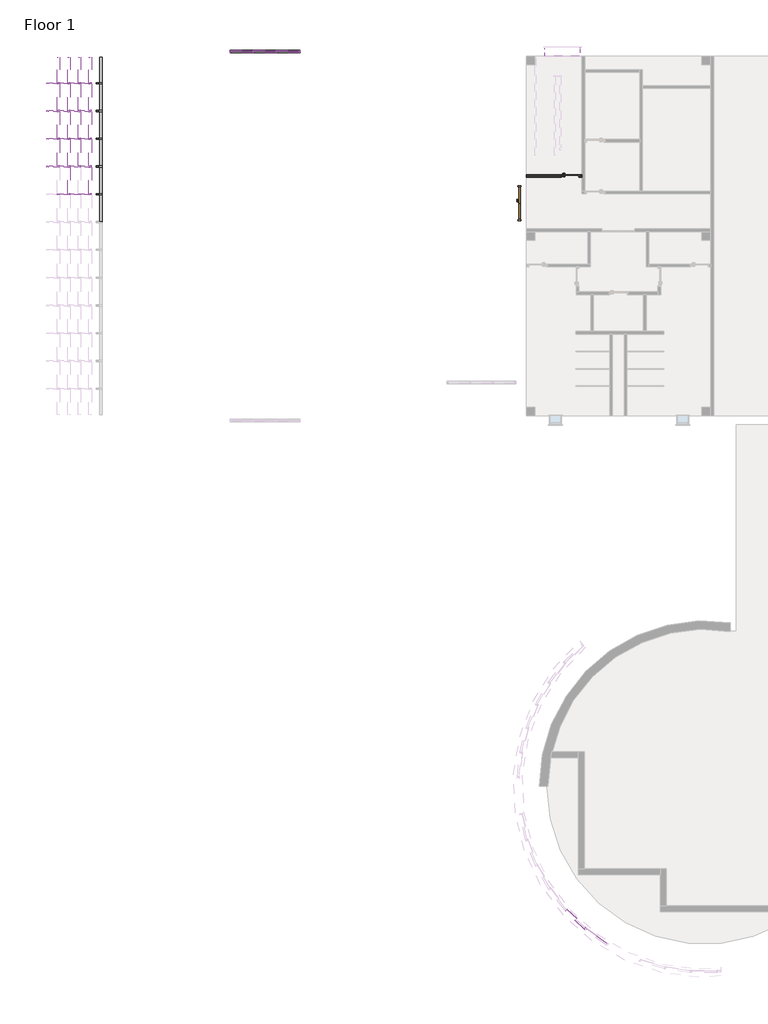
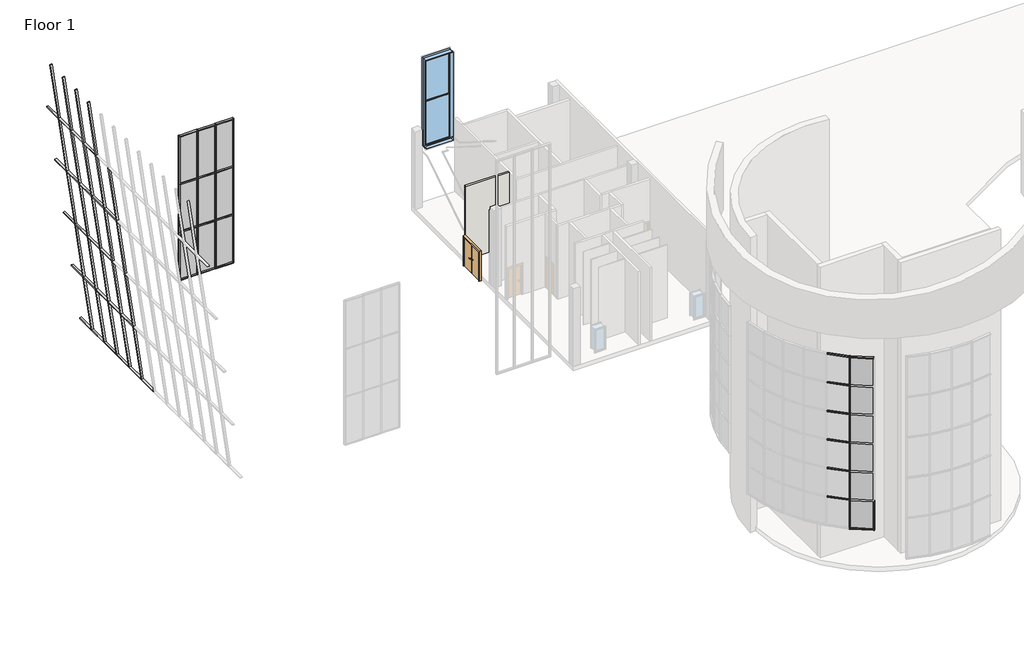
# One storey, part 4 of 11: 87 members, 15 plates, 2 doors, 1 wall, 1 window.
"""IFC4 building model written with IfcOpenShell, lengths in millimetres."""

from ifc_helpers import new_model, si_unit, frame, origin, place, context, project, spatial, polyline, outline, extrude, transform, mapped, element, save
from components import door_efda3cbc, door_a46f4f49, member_2f5ef470, member_233ab79f, member_995572cb, member_0efe1817, member_5e46efc9, member_58fb4e6d, member_60f5540e, member_f8a9089e, member_5e02c13a, member_c609194f, member_8caa64b4, member_b283b77b, member_01a33192, member_b037884b, member_01a4c065, member_349911e8, member_7b18d258, member_74dafc5e, member_9434a11c, system_panel_glazed_c8739ac2, system_panel_glazed_d9a1cec6, window_double_hung1_stairwell_window_f29d4600

model = new_model("IFC4")

# Units and contexts
model_context = context("Model", 3, world=origin())
ifc_project = project(units=[si_unit("LENGTHUNIT", "METRE", prefix="MILLI")], contexts=[model_context])

# Site, building, storey
site = spatial("IfcSite", under=ifc_project)
building = spatial("IfcBuilding", under=site)
storey = spatial("IfcBuildingStorey", under=building, Name="Floor 1", Elevation=0.0)

# Doors
placement = place(None, origin())
door_shape = door_efda3cbc(model_context)
element("IfcDoor", 1, ObjectType="Door-Passage-Double-Flush : 68\" x 80\"", at=placement, inside=storey, context=model_context, shape_type="MappedRepresentation", body=[
    mapped(door_shape, transform((-3186.4602165, 49707.011889, 0.0), x_axis=(0.0, 1.0, 0.0), y_axis=(-1.0, 0.0, 0.0), z_axis=(0.0, 0.0, 1.0))),
])
door_2_shape = door_a46f4f49(model_context)
element("IfcDoor", 2, ObjectType="Door-Passage-Single-Flush : 36\" x 84\"", at=placement, inside=storey, context=model_context, shape_type="MappedRepresentation", body=[
    mapped(door_2_shape, transform((-684.1807976, 51116.711889, 0.0), x_axis=(1.0, 0.0, 0.0), y_axis=(0.0, 1.0, 0.0), z_axis=(0.0, 0.0, 1.0))),
])

# Members
member_shape = member_2f5ef470(model_context)
element("IfcMember", 3, ObjectType="Rectangular Mullion1 : 2.5\" x 5\" rectangular", at=placement, inside=storey, context=model_context, shape_type="MappedRepresentation", body=[
    mapped(member_shape, transform((1235.4610146, 11112.8592493, 15849.6), x_axis=(0.0, 0.0, 1.0), y_axis=(-0.5828238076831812, -0.8125985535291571, 0.0), z_axis=(0.8125985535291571, -0.5828238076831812, 0.0))),
])
member_2_shape = member_233ab79f(model_context)
element("IfcMember", 4, ObjectType="Rectangular Mullion1 : 2.5\" x 5\" rectangular", at=placement, inside=storey, context=model_context, shape_type="MappedRepresentation", body=[
    mapped(member_2_shape, transform((98.4304721, 11934.0861139, 15849.6), x_axis=(0.0, 0.0, 1.0), y_axis=(-0.6953047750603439, -0.7187150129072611, 0.0), z_axis=(0.7187150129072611, -0.6953047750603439, 0.0))),
])
member_3_shape = member_995572cb(model_context)
element("IfcMember", 5, ObjectType="Rectangular Mullion1 : 2.5\" x 5\" rectangular", at=placement, inside=storey, context=model_context, shape_type="MappedRepresentation", body=[
    mapped(member_3_shape, transform((98.4304721, 11934.0861139, 5710.7666667), x_axis=(0.0, 0.0, 1.0), y_axis=(-0.695304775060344, -0.7187150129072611, 0.0), z_axis=(0.718715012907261, -0.6953047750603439, 0.0))),
])
element("IfcMember", 6, ObjectType="Rectangular Mullion1 : 2.5\" x 5\" rectangular", at=placement, inside=storey, context=model_context, shape_type="MappedRepresentation", body=[
    mapped(member_3_shape, transform((98.4304721, 11934.0861139, 7732.1833333), x_axis=(0.0, 0.0, 1.0), y_axis=(-0.695304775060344, -0.7187150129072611, 0.0), z_axis=(0.718715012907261, -0.6953047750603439, 0.0))),
])
element("IfcMember", 7, ObjectType="Rectangular Mullion1 : 2.5\" x 5\" rectangular", at=placement, inside=storey, context=model_context, shape_type="MappedRepresentation", body=[
    mapped(member_3_shape, transform((98.4304721, 11934.0861139, 9753.6), x_axis=(0.0, 0.0, 1.0), y_axis=(-0.6953047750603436, -0.7187150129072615, 0.0), z_axis=(0.7187150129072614, -0.6953047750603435, 0.0))),
])
element("IfcMember", 8, ObjectType="Rectangular Mullion1 : 2.5\" x 5\" rectangular", at=placement, inside=storey, context=model_context, shape_type="MappedRepresentation", body=[
    mapped(member_3_shape, transform((98.4304721, 11934.0861139, 11775.0166667), x_axis=(0.0, 0.0, 1.0), y_axis=(-0.6953047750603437, -0.7187150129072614, 0.0), z_axis=(0.7187150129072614, -0.6953047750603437, 0.0))),
])
element("IfcMember", 9, ObjectType="Rectangular Mullion1 : 2.5\" x 5\" rectangular", at=placement, inside=storey, context=model_context, shape_type="MappedRepresentation", body=[
    mapped(member_3_shape, transform((98.4304721, 11934.0861139, 13796.4333333), x_axis=(0.0, 0.0, 1.0), y_axis=(-0.6953047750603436, -0.7187150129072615, 0.0), z_axis=(0.7187150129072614, -0.6953047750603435, 0.0))),
])
member_4_shape = member_0efe1817(model_context)
element("IfcMember", 10, ObjectType="Rectangular Mullion1 : 2.5\" x 5\" rectangular", at=placement, inside=storey, context=model_context, shape_type="MappedRepresentation", body=[
    mapped(member_4_shape, transform((121.2496737, 11912.0101873, 3657.6), x_axis=(0.7671926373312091, -0.6414167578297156, 0.0), y_axis=(-0.6414167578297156, -0.7671926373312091, 0.0), z_axis=(0.0, 0.0, -1.0))),
])
member_5_shape = member_5e46efc9(model_context)
element("IfcMember", 11, ObjectType="Rectangular Mullion1 : 2.5\" x 5\" rectangular", at=placement, inside=storey, context=model_context, shape_type="MappedRepresentation", body=[
    mapped(member_5_shape, transform((121.2496737, 11912.0101873, 5710.7666667), x_axis=(0.7671926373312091, -0.6414167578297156, 0.0), y_axis=(-0.6414167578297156, -0.7671926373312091, 0.0), z_axis=(0.0, 0.0, -1.0))),
])
element("IfcMember", 12, ObjectType="Rectangular Mullion1 : 2.5\" x 5\" rectangular", at=placement, inside=storey, context=model_context, shape_type="MappedRepresentation", body=[
    mapped(member_5_shape, transform((121.2496737, 11912.0101873, 7732.1833333), x_axis=(0.7671926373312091, -0.6414167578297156, 0.0), y_axis=(-0.6414167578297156, -0.7671926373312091, 0.0), z_axis=(0.0, 0.0, -1.0))),
])
element("IfcMember", 13, ObjectType="Rectangular Mullion1 : 2.5\" x 5\" rectangular", at=placement, inside=storey, context=model_context, shape_type="MappedRepresentation", body=[
    mapped(member_5_shape, transform((121.2496737, 11912.0101873, 9753.6), x_axis=(0.7671926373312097, -0.6414167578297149, 0.0), y_axis=(-0.6414167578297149, -0.7671926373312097, 0.0), z_axis=(0.0, 0.0, -1.0))),
])
element("IfcMember", 14, ObjectType="Rectangular Mullion1 : 2.5\" x 5\" rectangular", at=placement, inside=storey, context=model_context, shape_type="MappedRepresentation", body=[
    mapped(member_5_shape, transform((121.2496737, 11912.0101873, 11775.0166667), x_axis=(0.7671926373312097, -0.6414167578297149, 0.0), y_axis=(-0.6414167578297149, -0.7671926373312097, 0.0), z_axis=(0.0, 0.0, -1.0))),
])
element("IfcMember", 15, ObjectType="Rectangular Mullion1 : 2.5\" x 5\" rectangular", at=placement, inside=storey, context=model_context, shape_type="MappedRepresentation", body=[
    mapped(member_4_shape, transform((121.2496737, 11912.0101873, 13796.4333333), x_axis=(0.7671926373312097, -0.6414167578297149, 0.0), y_axis=(-0.6414167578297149, -0.7671926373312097, 0.0), z_axis=(0.0, 0.0, -1.0))),
])
member_6_shape = member_58fb4e6d(model_context)
element("IfcMember", 16, ObjectType="Rectangular Mullion1 : 2.5\" x 5\" rectangular", at=placement, inside=storey, context=model_context, shape_type="MappedRepresentation", body=[
    mapped(member_6_shape, transform((147.0496778, 11893.5055314, 3657.6), x_axis=(0.0, 0.0, -1.0), y_axis=(-0.5828238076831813, -0.812598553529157, 0.0), z_axis=(-0.8125985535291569, 0.5828238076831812, 0.0))),
])
member_7_shape = member_60f5540e(model_context)
element("IfcMember", 17, ObjectType="Rectangular Mullion1 : 2.5\" x 5\" rectangular", at=placement, inside=storey, context=model_context, shape_type="MappedRepresentation", body=[
    mapped(member_7_shape, transform((1287.0610227, 11075.8499375, 3657.6), x_axis=(0.8125985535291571, -0.5828238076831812, 0.0), y_axis=(-0.5828238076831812, -0.8125985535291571, 0.0), z_axis=(0.0, 0.0, -1.0))),
])
member_8_shape = member_f8a9089e(model_context)
element("IfcMember", 18, ObjectType="Rectangular Mullion1 : 2.5\" x 5\" rectangular", at=placement, inside=storey, context=model_context, shape_type="MappedRepresentation", body=[
    mapped(member_8_shape, transform((-25136.1948919, 57303.199389, -154.1674984), x_axis=(0.13917310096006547, 0.0, -0.9902680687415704), y_axis=(-0.9902680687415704, 0.0, -0.13917310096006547), z_axis=(0.0, 1.0, 0.0))),
])
member_9_shape = member_5e02c13a(model_context)
element("IfcMember", 19, ObjectType="Rectangular Mullion1 : 2.5\" x 5\" rectangular", at=placement, inside=storey, context=model_context, shape_type="MappedRepresentation", body=[
    mapped(member_9_shape, transform((-25136.1948919, 55919.6320811, -154.1674984), x_axis=(0.13917310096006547, 0.0, -0.9902680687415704), y_axis=(-0.9902680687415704, 0.0, -0.13917310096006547), z_axis=(0.0, 1.0, 0.0))),
])
element("IfcMember", 20, ObjectType="Rectangular Mullion1 : 2.5\" x 5\" rectangular", at=placement, inside=storey, context=model_context, shape_type="MappedRepresentation", body=[
    mapped(member_9_shape, transform((-25136.1948919, 54472.5647734, -154.1674984), x_axis=(0.13917310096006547, 0.0, -0.9902680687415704), y_axis=(-0.9902680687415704, 0.0, -0.13917310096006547), z_axis=(0.0, 1.0, 0.0))),
])
element("IfcMember", 21, ObjectType="Rectangular Mullion1 : 2.5\" x 5\" rectangular", at=placement, inside=storey, context=model_context, shape_type="MappedRepresentation", body=[
    mapped(member_9_shape, transform((-25136.1948919, 53025.4974658, -154.1674984), x_axis=(0.13917310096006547, 0.0, -0.9902680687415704), y_axis=(-0.9902680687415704, 0.0, -0.13917310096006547), z_axis=(0.0, 1.0, 0.0))),
])
element("IfcMember", 22, ObjectType="Rectangular Mullion1 : 2.5\" x 5\" rectangular", at=placement, inside=storey, context=model_context, shape_type="MappedRepresentation", body=[
    mapped(member_9_shape, transform((-25136.1948919, 51578.4301581, -154.1674984), x_axis=(0.13917310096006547, 0.0, -0.9902680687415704), y_axis=(-0.9902680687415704, 0.0, -0.13917310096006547), z_axis=(0.0, 1.0, 0.0))),
])
element("IfcMember", 23, ObjectType="Rectangular Mullion1 : 2.5\" x 5\" rectangular", at=placement, inside=storey, context=model_context, shape_type="MappedRepresentation", body=[
    mapped(member_9_shape, transform((-25136.1948919, 50131.3628505, -154.1674984), x_axis=(0.13917310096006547, 0.0, -0.9902680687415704), y_axis=(-0.9902680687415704, 0.0, -0.13917310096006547), z_axis=(0.0, 1.0, 0.0))),
])
member_10_shape = member_c609194f(model_context)
element("IfcMember", 24, ObjectType="Rectangular Mullion1 : 2.5\" x 5\" rectangular", at=placement, inside=storey, context=model_context, shape_type="MappedRepresentation", body=[
    mapped(member_10_shape, transform((-25693.3790742, 55983.1320811, 3810.4039622), x_axis=(-0.13917310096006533, 0.0, 0.9902680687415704), y_axis=(-0.9902680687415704, 0.0, -0.13917310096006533), z_axis=(0.0, -1.0, 0.0))),
])
element("IfcMember", 25, ObjectType="Rectangular Mullion1 : 2.5\" x 5\" rectangular", at=placement, inside=storey, context=model_context, shape_type="MappedRepresentation", body=[
    mapped(member_10_shape, transform((-26246.1445106, 55983.1320811, 7743.5344115), x_axis=(-0.13917310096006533, 0.0, 0.9902680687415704), y_axis=(-0.9902680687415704, 0.0, -0.13917310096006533), z_axis=(0.0, -1.0, 0.0))),
])
element("IfcMember", 26, ObjectType="Rectangular Mullion1 : 2.5\" x 5\" rectangular", at=placement, inside=storey, context=model_context, shape_type="MappedRepresentation", body=[
    mapped(member_10_shape, transform((-26798.9099469, 55983.1320811, 11676.6648609), x_axis=(-0.13917310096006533, 0.0, 0.9902680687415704), y_axis=(-0.9902680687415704, 0.0, -0.13917310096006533), z_axis=(0.0, -1.0, 0.0))),
])
element("IfcMember", 27, ObjectType="Rectangular Mullion1 : 2.5\" x 5\" rectangular", at=placement, inside=storey, context=model_context, shape_type="MappedRepresentation", body=[
    mapped(member_10_shape, transform((-27351.6753833, 55983.1320811, 15609.7953102), x_axis=(-0.13917310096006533, 0.0, 0.9902680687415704), y_axis=(-0.9902680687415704, 0.0, -0.13917310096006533), z_axis=(0.0, -1.0, 0.0))),
])
member_11_shape = member_8caa64b4(model_context)
element("IfcMember", 28, ObjectType="Rectangular Mullion1 : 2.5\" x 5\" rectangular", at=placement, inside=storey, context=model_context, shape_type="MappedRepresentation", body=[
    mapped(member_11_shape, transform((-25693.3790742, 54536.0647734, 3810.4039622), x_axis=(-0.13917310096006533, 0.0, 0.9902680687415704), y_axis=(-0.9902680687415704, 0.0, -0.13917310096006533), z_axis=(0.0, -1.0, 0.0))),
])
element("IfcMember", 29, ObjectType="Rectangular Mullion1 : 2.5\" x 5\" rectangular", at=placement, inside=storey, context=model_context, shape_type="MappedRepresentation", body=[
    mapped(member_11_shape, transform((-25693.3790742, 53088.9974658, 3810.4039622), x_axis=(-0.13917310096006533, 0.0, 0.9902680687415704), y_axis=(-0.9902680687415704, 0.0, -0.13917310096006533), z_axis=(0.0, -1.0, 0.0))),
])
element("IfcMember", 30, ObjectType="Rectangular Mullion1 : 2.5\" x 5\" rectangular", at=placement, inside=storey, context=model_context, shape_type="MappedRepresentation", body=[
    mapped(member_11_shape, transform((-25693.3790742, 51641.9301581, 3810.4039622), x_axis=(-0.13917310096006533, 0.0, 0.9902680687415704), y_axis=(-0.9902680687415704, 0.0, -0.13917310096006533), z_axis=(0.0, -1.0, 0.0))),
])
element("IfcMember", 31, ObjectType="Rectangular Mullion1 : 2.5\" x 5\" rectangular", at=placement, inside=storey, context=model_context, shape_type="MappedRepresentation", body=[
    mapped(member_11_shape, transform((-25693.3790742, 50194.8628505, 3810.4039622), x_axis=(-0.13917310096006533, 0.0, 0.9902680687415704), y_axis=(-0.9902680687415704, 0.0, -0.13917310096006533), z_axis=(0.0, -1.0, 0.0))),
])
element("IfcMember", 32, ObjectType="Rectangular Mullion1 : 2.5\" x 5\" rectangular", at=placement, inside=storey, context=model_context, shape_type="MappedRepresentation", body=[
    mapped(member_11_shape, transform((-26246.1445106, 54536.0647734, 7743.5344115), x_axis=(-0.13917310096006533, 0.0, 0.9902680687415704), y_axis=(-0.9902680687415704, 0.0, -0.13917310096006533), z_axis=(0.0, -1.0, 0.0))),
])
element("IfcMember", 33, ObjectType="Rectangular Mullion1 : 2.5\" x 5\" rectangular", at=placement, inside=storey, context=model_context, shape_type="MappedRepresentation", body=[
    mapped(member_11_shape, transform((-26246.1445106, 53088.9974658, 7743.5344115), x_axis=(-0.13917310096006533, 0.0, 0.9902680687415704), y_axis=(-0.9902680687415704, 0.0, -0.13917310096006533), z_axis=(0.0, -1.0, 0.0))),
])
element("IfcMember", 34, ObjectType="Rectangular Mullion1 : 2.5\" x 5\" rectangular", at=placement, inside=storey, context=model_context, shape_type="MappedRepresentation", body=[
    mapped(member_11_shape, transform((-26246.1445106, 51641.9301581, 7743.5344115), x_axis=(-0.13917310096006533, 0.0, 0.9902680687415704), y_axis=(-0.9902680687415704, 0.0, -0.13917310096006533), z_axis=(0.0, -1.0, 0.0))),
])
element("IfcMember", 35, ObjectType="Rectangular Mullion1 : 2.5\" x 5\" rectangular", at=placement, inside=storey, context=model_context, shape_type="MappedRepresentation", body=[
    mapped(member_11_shape, transform((-26798.9099469, 54536.0647734, 11676.6648609), x_axis=(-0.13917310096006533, 0.0, 0.9902680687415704), y_axis=(-0.9902680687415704, 0.0, -0.13917310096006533), z_axis=(0.0, -1.0, 0.0))),
])
element("IfcMember", 36, ObjectType="Rectangular Mullion1 : 2.5\" x 5\" rectangular", at=placement, inside=storey, context=model_context, shape_type="MappedRepresentation", body=[
    mapped(member_11_shape, transform((-26798.9099469, 53088.9974658, 11676.6648609), x_axis=(-0.13917310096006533, 0.0, 0.9902680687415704), y_axis=(-0.9902680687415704, 0.0, -0.13917310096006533), z_axis=(0.0, -1.0, 0.0))),
])
element("IfcMember", 37, ObjectType="Rectangular Mullion1 : 2.5\" x 5\" rectangular", at=placement, inside=storey, context=model_context, shape_type="MappedRepresentation", body=[
    mapped(member_11_shape, transform((-26798.9099469, 51641.9301581, 11676.6648609), x_axis=(-0.13917310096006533, 0.0, 0.9902680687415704), y_axis=(-0.9902680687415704, 0.0, -0.13917310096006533), z_axis=(0.0, -1.0, 0.0))),
])
element("IfcMember", 38, ObjectType="Rectangular Mullion1 : 2.5\" x 5\" rectangular", at=placement, inside=storey, context=model_context, shape_type="MappedRepresentation", body=[
    mapped(member_11_shape, transform((-26798.9099469, 50194.8628505, 11676.6648609), x_axis=(-0.13917310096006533, 0.0, 0.9902680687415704), y_axis=(-0.9902680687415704, 0.0, -0.13917310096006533), z_axis=(0.0, -1.0, 0.0))),
])
element("IfcMember", 39, ObjectType="Rectangular Mullion1 : 2.5\" x 5\" rectangular", at=placement, inside=storey, context=model_context, shape_type="MappedRepresentation", body=[
    mapped(member_11_shape, transform((-27351.6753833, 54536.0647734, 15609.7953102), x_axis=(-0.13917310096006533, 0.0, 0.9902680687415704), y_axis=(-0.9902680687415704, 0.0, -0.13917310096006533), z_axis=(0.0, -1.0, 0.0))),
])
element("IfcMember", 40, ObjectType="Rectangular Mullion1 : 2.5\" x 5\" rectangular", at=placement, inside=storey, context=model_context, shape_type="MappedRepresentation", body=[
    mapped(member_11_shape, transform((-27351.6753833, 53088.9974658, 15609.7953102), x_axis=(-0.13917310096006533, 0.0, 0.9902680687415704), y_axis=(-0.9902680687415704, 0.0, -0.13917310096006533), z_axis=(0.0, -1.0, 0.0))),
])
element("IfcMember", 41, ObjectType="Rectangular Mullion1 : 2.5\" x 5\" rectangular", at=placement, inside=storey, context=model_context, shape_type="MappedRepresentation", body=[
    mapped(member_11_shape, transform((-27351.6753833, 51641.9301581, 15609.7953102), x_axis=(-0.13917310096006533, 0.0, 0.9902680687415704), y_axis=(-0.9902680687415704, 0.0, -0.13917310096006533), z_axis=(0.0, -1.0, 0.0))),
])
member_12_shape = member_b283b77b(model_context)
element("IfcMember", 42, ObjectType="Rectangular Mullion1 : 2.5\" x 5\" rectangular", at=placement, inside=storey, context=model_context, shape_type="MappedRepresentation", body=[
    mapped(member_12_shape, transform((-25136.1948919, 55951.3820811, -154.1674984), x_axis=(0.0, -1.0, 0.0), y_axis=(-0.9902680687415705, 0.0, -0.13917310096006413), z_axis=(0.13917310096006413, 0.0, -0.9902680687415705))),
])
element("IfcMember", 43, ObjectType="Rectangular Mullion1 : 2.5\" x 5\" rectangular", at=placement, inside=storey, context=model_context, shape_type="MappedRepresentation", body=[
    mapped(member_12_shape, transform((-25136.1948919, 54504.3147734, -154.1674984), x_axis=(0.0, -1.0, 0.0), y_axis=(-0.99026806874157, 0.0, -0.1391731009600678), z_axis=(0.1391731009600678, 0.0, -0.99026806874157))),
])
element("IfcMember", 44, ObjectType="Rectangular Mullion1 : 2.5\" x 5\" rectangular", at=placement, inside=storey, context=model_context, shape_type="MappedRepresentation", body=[
    mapped(member_12_shape, transform((-25136.1948919, 53057.2474658, -154.1674984), x_axis=(0.0, -1.0, 0.0), y_axis=(-0.9902680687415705, 0.0, -0.13917310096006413), z_axis=(0.13917310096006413, 0.0, -0.9902680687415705))),
])
element("IfcMember", 45, ObjectType="Rectangular Mullion1 : 2.5\" x 5\" rectangular", at=placement, inside=storey, context=model_context, shape_type="MappedRepresentation", body=[
    mapped(member_12_shape, transform((-25136.1948919, 51610.1801581, -154.1674984), x_axis=(0.0, -1.0, 0.0), y_axis=(-0.99026806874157, 0.0, -0.1391731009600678), z_axis=(0.1391731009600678, 0.0, -0.99026806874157))),
])
element("IfcMember", 46, ObjectType="Rectangular Mullion1 : 2.5\" x 5\" rectangular", at=placement, inside=storey, context=model_context, shape_type="MappedRepresentation", body=[
    mapped(member_12_shape, transform((-25136.1948919, 50163.1128505, -154.1674984), x_axis=(0.0, -1.0, 0.0), y_axis=(-0.9902680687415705, 0.0, -0.13917310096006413), z_axis=(0.13917310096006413, 0.0, -0.9902680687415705))),
])
member_13_shape = member_01a33192(model_context)
element("IfcMember", 47, ObjectType="Rectangular Mullion1 : 2.5\" x 5\" rectangular", at=placement, inside=storey, context=model_context, shape_type="MappedRepresentation", body=[
    mapped(member_13_shape, transform((-25693.3790742, 55951.3820811, 3810.4039622), x_axis=(0.0, -1.0, 0.0), y_axis=(-0.9902680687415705, 0.0, -0.13917310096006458), z_axis=(0.13917310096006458, 0.0, -0.9902680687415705))),
])
element("IfcMember", 48, ObjectType="Rectangular Mullion1 : 2.5\" x 5\" rectangular", at=placement, inside=storey, context=model_context, shape_type="MappedRepresentation", body=[
    mapped(member_13_shape, transform((-25693.3790742, 54504.3147734, 3810.4039622), x_axis=(0.0, -1.0, 0.0), y_axis=(-0.9902680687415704, 0.0, -0.13917310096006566), z_axis=(0.13917310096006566, 0.0, -0.9902680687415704))),
])
element("IfcMember", 49, ObjectType="Rectangular Mullion1 : 2.5\" x 5\" rectangular", at=placement, inside=storey, context=model_context, shape_type="MappedRepresentation", body=[
    mapped(member_13_shape, transform((-25693.3790742, 53057.2474658, 3810.4039622), x_axis=(0.0, -1.0, 0.0), y_axis=(-0.9902680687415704, 0.0, -0.13917310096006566), z_axis=(0.13917310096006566, 0.0, -0.9902680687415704))),
])
element("IfcMember", 50, ObjectType="Rectangular Mullion1 : 2.5\" x 5\" rectangular", at=placement, inside=storey, context=model_context, shape_type="MappedRepresentation", body=[
    mapped(member_13_shape, transform((-25693.3790742, 51610.1801581, 3810.4039622), x_axis=(0.0, -1.0, 0.0), y_axis=(-0.9902680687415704, 0.0, -0.13917310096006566), z_axis=(0.13917310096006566, 0.0, -0.9902680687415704))),
])
element("IfcMember", 51, ObjectType="Rectangular Mullion1 : 2.5\" x 5\" rectangular", at=placement, inside=storey, context=model_context, shape_type="MappedRepresentation", body=[
    mapped(member_13_shape, transform((-25693.3790742, 50163.1128505, 3810.4039622), x_axis=(0.0, -1.0, 0.0), y_axis=(-0.9902680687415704, 0.0, -0.13917310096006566), z_axis=(0.13917310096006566, 0.0, -0.9902680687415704))),
])
element("IfcMember", 52, ObjectType="Rectangular Mullion1 : 2.5\" x 5\" rectangular", at=placement, inside=storey, context=model_context, shape_type="MappedRepresentation", body=[
    mapped(member_13_shape, transform((-26246.1445106, 55951.3820811, 7743.5344115), x_axis=(0.0, -1.0, 0.0), y_axis=(-0.9902680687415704, 0.0, -0.13917310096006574), z_axis=(0.13917310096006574, 0.0, -0.9902680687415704))),
])
element("IfcMember", 53, ObjectType="Rectangular Mullion1 : 2.5\" x 5\" rectangular", at=placement, inside=storey, context=model_context, shape_type="MappedRepresentation", body=[
    mapped(member_13_shape, transform((-26246.1445106, 54504.3147734, 7743.5344115), x_axis=(0.0, -1.0, 0.0), y_axis=(-0.9902680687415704, 0.0, -0.13917310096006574), z_axis=(0.13917310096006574, 0.0, -0.9902680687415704))),
])
element("IfcMember", 54, ObjectType="Rectangular Mullion1 : 2.5\" x 5\" rectangular", at=placement, inside=storey, context=model_context, shape_type="MappedRepresentation", body=[
    mapped(member_13_shape, transform((-26246.1445106, 53057.2474658, 7743.5344115), x_axis=(0.0, -1.0, 0.0), y_axis=(-0.9902680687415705, 0.0, -0.13917310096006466), z_axis=(0.13917310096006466, 0.0, -0.9902680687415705))),
])
element("IfcMember", 55, ObjectType="Rectangular Mullion1 : 2.5\" x 5\" rectangular", at=placement, inside=storey, context=model_context, shape_type="MappedRepresentation", body=[
    mapped(member_13_shape, transform((-26246.1445106, 51610.1801581, 7743.5344115), x_axis=(0.0, -1.0, 0.0), y_axis=(-0.9902680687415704, 0.0, -0.13917310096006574), z_axis=(0.13917310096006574, 0.0, -0.9902680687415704))),
])
element("IfcMember", 56, ObjectType="Rectangular Mullion1 : 2.5\" x 5\" rectangular", at=placement, inside=storey, context=model_context, shape_type="MappedRepresentation", body=[
    mapped(member_13_shape, transform((-26246.1445106, 50163.1128505, 7743.5344115), x_axis=(0.0, -1.0, 0.0), y_axis=(-0.9902680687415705, 0.0, -0.13917310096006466), z_axis=(0.13917310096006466, 0.0, -0.9902680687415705))),
])
element("IfcMember", 57, ObjectType="Rectangular Mullion1 : 2.5\" x 5\" rectangular", at=placement, inside=storey, context=model_context, shape_type="MappedRepresentation", body=[
    mapped(member_13_shape, transform((-26798.9099469, 55951.3820811, 11676.6648609), x_axis=(0.0, -1.0, 0.0), y_axis=(-0.9902680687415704, 0.0, -0.13917310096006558), z_axis=(0.13917310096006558, 0.0, -0.9902680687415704))),
])
element("IfcMember", 58, ObjectType="Rectangular Mullion1 : 2.5\" x 5\" rectangular", at=placement, inside=storey, context=model_context, shape_type="MappedRepresentation", body=[
    mapped(member_13_shape, transform((-26798.9099469, 54504.3147734, 11676.6648609), x_axis=(0.0, -1.0, 0.0), y_axis=(-0.9902680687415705, 0.0, -0.1391731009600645), z_axis=(0.1391731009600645, 0.0, -0.9902680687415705))),
])
element("IfcMember", 59, ObjectType="Rectangular Mullion1 : 2.5\" x 5\" rectangular", at=placement, inside=storey, context=model_context, shape_type="MappedRepresentation", body=[
    mapped(member_13_shape, transform((-26798.9099469, 53057.2474658, 11676.6648609), x_axis=(0.0, -1.0, 0.0), y_axis=(-0.9902680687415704, 0.0, -0.13917310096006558), z_axis=(0.13917310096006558, 0.0, -0.9902680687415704))),
])
element("IfcMember", 60, ObjectType="Rectangular Mullion1 : 2.5\" x 5\" rectangular", at=placement, inside=storey, context=model_context, shape_type="MappedRepresentation", body=[
    mapped(member_13_shape, transform((-26798.9099469, 51610.1801581, 11676.6648609), x_axis=(0.0, -1.0, 0.0), y_axis=(-0.9902680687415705, 0.0, -0.1391731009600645), z_axis=(0.1391731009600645, 0.0, -0.9902680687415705))),
])
element("IfcMember", 61, ObjectType="Rectangular Mullion1 : 2.5\" x 5\" rectangular", at=placement, inside=storey, context=model_context, shape_type="MappedRepresentation", body=[
    mapped(member_13_shape, transform((-26798.9099469, 50163.1128505, 11676.6648609), x_axis=(0.0, -1.0, 0.0), y_axis=(-0.9902680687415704, 0.0, -0.13917310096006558), z_axis=(0.13917310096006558, 0.0, -0.9902680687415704))),
])
element("IfcMember", 62, ObjectType="Rectangular Mullion1 : 2.5\" x 5\" rectangular", at=placement, inside=storey, context=model_context, shape_type="MappedRepresentation", body=[
    mapped(member_12_shape, transform((-27351.6753833, 55951.3820811, 15609.7953102), x_axis=(0.0, -1.0, 0.0), y_axis=(-0.9902680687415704, 0.0, -0.13917310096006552), z_axis=(0.1391731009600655, 0.0, -0.9902680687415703))),
])
element("IfcMember", 63, ObjectType="Rectangular Mullion1 : 2.5\" x 5\" rectangular", at=placement, inside=storey, context=model_context, shape_type="MappedRepresentation", body=[
    mapped(member_12_shape, transform((-27351.6753833, 54504.3147734, 15609.7953102), x_axis=(0.0, -1.0, 0.0), y_axis=(-0.9902680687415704, 0.0, -0.13917310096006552), z_axis=(0.1391731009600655, 0.0, -0.9902680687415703))),
])
element("IfcMember", 64, ObjectType="Rectangular Mullion1 : 2.5\" x 5\" rectangular", at=placement, inside=storey, context=model_context, shape_type="MappedRepresentation", body=[
    mapped(member_12_shape, transform((-27351.6753833, 53057.2474658, 15609.7953102), x_axis=(0.0, -1.0, 0.0), y_axis=(-0.9902680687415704, 0.0, -0.13917310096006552), z_axis=(0.1391731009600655, 0.0, -0.9902680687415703))),
])
element("IfcMember", 65, ObjectType="Rectangular Mullion1 : 2.5\" x 5\" rectangular", at=placement, inside=storey, context=model_context, shape_type="MappedRepresentation", body=[
    mapped(member_12_shape, transform((-27351.6753833, 51610.1801581, 15609.7953102), x_axis=(0.0, -1.0, 0.0), y_axis=(-0.9902680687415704, 0.0, -0.13917310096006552), z_axis=(0.1391731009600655, 0.0, -0.9902680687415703))),
])
member_14_shape = member_b037884b(model_context)
element("IfcMember", 66, ObjectType="Rectangular Mullion1 : 2.5\" x 5\" rectangular", at=placement, inside=storey, context=model_context, shape_type="MappedRepresentation", body=[
    mapped(member_14_shape, transform((-18341.9432976, 57593.711889, 10210.8), x_axis=(0.0, 0.0, 1.0), y_axis=(0.0, 1.0, 0.0), z_axis=(-1.0, 0.0, 0.0))),
])
element("IfcMember", 67, ObjectType="Rectangular Mullion1 : 2.5\" x 5\" rectangular", at=placement, inside=storey, context=model_context, shape_type="MappedRepresentation", body=[
    mapped(member_14_shape, transform((-15945.8766311, 57593.711889, 10210.8), x_axis=(0.0, 0.0, 1.0), y_axis=(0.0, 1.0, 0.0), z_axis=(-1.0, 0.0, 0.0))),
])
element("IfcMember", 68, ObjectType="Rectangular Mullion1 : 2.5\" x 5\" rectangular", at=placement, inside=storey, context=model_context, shape_type="MappedRepresentation", body=[
    mapped(member_14_shape, transform((-17143.9099642, 57593.711889, 10210.8), x_axis=(0.0, 0.0, 1.0), y_axis=(0.0, 1.0, 0.0), z_axis=(-1.0, 0.0, 0.0))),
])
element("IfcMember", 69, ObjectType="Rectangular Mullion1 : 2.5\" x 5\" rectangular", at=placement, inside=storey, context=model_context, shape_type="MappedRepresentation", body=[
    mapped(member_14_shape, transform((-14811.3432976, 57593.711889, 0.0), x_axis=(0.0, 0.0, -1.0), y_axis=(0.0, 1.0, 0.0), z_axis=(1.0, 0.0, 0.0))),
])
element("IfcMember", 70, ObjectType="Rectangular Mullion1 : 2.5\" x 5\" rectangular", at=placement, inside=storey, context=model_context, shape_type="MappedRepresentation", body=[
    mapped(member_14_shape, transform((-16009.3766311, 57593.711889, 0.0), x_axis=(0.0, 0.0, -1.0), y_axis=(0.0, 1.0, 0.0), z_axis=(1.0, 0.0, 0.0))),
])
element("IfcMember", 71, ObjectType="Rectangular Mullion1 : 2.5\" x 5\" rectangular", at=placement, inside=storey, context=model_context, shape_type="MappedRepresentation", body=[
    mapped(member_14_shape, transform((-17207.4099642, 57593.711889, 0.0), x_axis=(0.0, 0.0, -1.0), y_axis=(0.0, 1.0, 0.0), z_axis=(1.0, 0.0, 0.0))),
])
member_15_shape = member_01a4c065(model_context)
element("IfcMember", 72, ObjectType="Rectangular Mullion1 : 2.5\" x 5\" rectangular", at=placement, inside=storey, context=model_context, shape_type="MappedRepresentation", body=[
    mapped(member_15_shape, transform((-15945.8766311, 57593.711889, 3414.1833333), x_axis=(0.0, 0.0, 1.0), y_axis=(0.0, 1.0, 0.0), z_axis=(-1.0, 0.0, 0.0))),
])
element("IfcMember", 73, ObjectType="Rectangular Mullion1 : 2.5\" x 5\" rectangular", at=placement, inside=storey, context=model_context, shape_type="MappedRepresentation", body=[
    mapped(member_15_shape, transform((-17143.9099642, 57593.711889, 3414.1833333), x_axis=(0.0, 0.0, 1.0), y_axis=(0.0, 1.0, 0.0), z_axis=(-1.0, 0.0, 0.0))),
])
element("IfcMember", 74, ObjectType="Rectangular Mullion1 : 2.5\" x 5\" rectangular", at=placement, inside=storey, context=model_context, shape_type="MappedRepresentation", body=[
    mapped(member_15_shape, transform((-18341.9432976, 57593.711889, 3414.1833333), x_axis=(0.0, 0.0, 1.0), y_axis=(0.0, 1.0, 0.0), z_axis=(-1.0, 0.0, 0.0))),
])
element("IfcMember", 75, ObjectType="Rectangular Mullion1 : 2.5\" x 5\" rectangular", at=placement, inside=storey, context=model_context, shape_type="MappedRepresentation", body=[
    mapped(member_15_shape, transform((-15945.8766311, 57593.711889, 6796.6166667), x_axis=(0.0, 0.0, 1.0), y_axis=(0.0, 1.0, 0.0), z_axis=(-1.0, 0.0, 0.0))),
])
element("IfcMember", 76, ObjectType="Rectangular Mullion1 : 2.5\" x 5\" rectangular", at=placement, inside=storey, context=model_context, shape_type="MappedRepresentation", body=[
    mapped(member_15_shape, transform((-17143.9099642, 57593.711889, 6796.6166667), x_axis=(0.0, 0.0, 1.0), y_axis=(0.0, 1.0, 0.0), z_axis=(-1.0, 0.0, 0.0))),
])
element("IfcMember", 77, ObjectType="Rectangular Mullion1 : 2.5\" x 5\" rectangular", at=placement, inside=storey, context=model_context, shape_type="MappedRepresentation", body=[
    mapped(member_15_shape, transform((-18341.9432976, 57593.711889, 6796.6166667), x_axis=(0.0, 0.0, 1.0), y_axis=(0.0, 1.0, 0.0), z_axis=(-1.0, 0.0, 0.0))),
])
member_16_shape = member_349911e8(model_context)
element("IfcMember", 78, ObjectType="Rectangular Mullion1 : 2.5\" x 5\" rectangular", at=placement, inside=storey, context=model_context, shape_type="MappedRepresentation", body=[
    mapped(member_16_shape, transform((-15977.6266311, 57593.711889, 0.0), x_axis=(-1.0, 0.0, 0.0), y_axis=(0.0, 1.0, 0.0), z_axis=(0.0, 0.0, -1.0))),
])
element("IfcMember", 79, ObjectType="Rectangular Mullion1 : 2.5\" x 5\" rectangular", at=placement, inside=storey, context=model_context, shape_type="MappedRepresentation", body=[
    mapped(member_16_shape, transform((-17175.6599642, 57593.711889, 0.0), x_axis=(-1.0, 0.0, 0.0), y_axis=(0.0, 1.0, 0.0), z_axis=(0.0, 0.0, -1.0))),
])
member_17_shape = member_7b18d258(model_context)
element("IfcMember", 80, ObjectType="Rectangular Mullion1 : 2.5\" x 5\" rectangular", at=placement, inside=storey, context=model_context, shape_type="MappedRepresentation", body=[
    mapped(member_17_shape, transform((-15977.6266311, 57593.711889, 3414.1833333), x_axis=(-1.0, 0.0, 0.0), y_axis=(0.0, 1.0, 0.0), z_axis=(0.0, 0.0, -1.0))),
])
element("IfcMember", 81, ObjectType="Rectangular Mullion1 : 2.5\" x 5\" rectangular", at=placement, inside=storey, context=model_context, shape_type="MappedRepresentation", body=[
    mapped(member_17_shape, transform((-17175.6599642, 57593.711889, 3414.1833333), x_axis=(-1.0, 0.0, 0.0), y_axis=(0.0, 1.0, 0.0), z_axis=(0.0, 0.0, -1.0))),
])
element("IfcMember", 82, ObjectType="Rectangular Mullion1 : 2.5\" x 5\" rectangular", at=placement, inside=storey, context=model_context, shape_type="MappedRepresentation", body=[
    mapped(member_16_shape, transform((-15977.6266311, 57593.711889, 6796.6166667), x_axis=(-1.0, 0.0, 0.0), y_axis=(0.0, 1.0, 0.0), z_axis=(0.0, 0.0, -1.0))),
])
element("IfcMember", 83, ObjectType="Rectangular Mullion1 : 2.5\" x 5\" rectangular", at=placement, inside=storey, context=model_context, shape_type="MappedRepresentation", body=[
    mapped(member_16_shape, transform((-17175.6599642, 57593.711889, 6796.6166667), x_axis=(-1.0, 0.0, 0.0), y_axis=(0.0, 1.0, 0.0), z_axis=(0.0, 0.0, -1.0))),
])
member_18_shape = member_74dafc5e(model_context)
element("IfcMember", 84, ObjectType="Rectangular Mullion1 : 2.5\" x 5\" rectangular", at=placement, inside=storey, context=model_context, shape_type="MappedRepresentation", body=[
    mapped(member_18_shape, transform((-18405.4432976, 57593.711889, 0.0), x_axis=(-1.0, 0.0, 0.0), y_axis=(0.0, 1.0, 0.0), z_axis=(0.0, 0.0, -1.0))),
])
member_19_shape = member_9434a11c(model_context)
element("IfcMember", 85, ObjectType="Rectangular Mullion1 : 2.5\" x 5\" rectangular", at=placement, inside=storey, context=model_context, shape_type="MappedRepresentation", body=[
    mapped(member_19_shape, transform((-18405.4432976, 57593.711889, 3414.1833333), x_axis=(-1.0, 0.0, 0.0), y_axis=(0.0, 1.0, 0.0), z_axis=(0.0, 0.0, -1.0))),
])
element("IfcMember", 86, ObjectType="Rectangular Mullion1 : 2.5\" x 5\" rectangular", at=placement, inside=storey, context=model_context, shape_type="MappedRepresentation", body=[
    mapped(member_18_shape, transform((-18405.4432976, 57593.711889, 6796.6166667), x_axis=(-1.0, 0.0, 0.0), y_axis=(0.0, 1.0, 0.0), z_axis=(0.0, 0.0, -1.0))),
])
element("IfcMember", 87, ObjectType="Rectangular Mullion1 : 2.5\" x 5\" rectangular", at=placement, inside=storey, context=model_context, shape_type="MappedRepresentation", body=[
    mapped(member_18_shape, transform((-14747.8432976, 57593.711889, 10210.8), x_axis=(1.0, 0.0, 0.0), y_axis=(0.0, 1.0, 0.0), z_axis=(0.0, 0.0, 1.0))),
])
element("IfcMember", 88, ObjectType="Rectangular Mullion1 : 2.5\" x 5\" rectangular", at=placement, inside=storey, context=model_context, shape_type="MappedRepresentation", body=[
    mapped(member_18_shape, transform((-14747.8432976, 57593.711889, 3414.1833333), x_axis=(1.0, 0.0, 0.0), y_axis=(0.0, 1.0, 0.0), z_axis=(0.0, 0.0, 1.0))),
])
element("IfcMember", 89, ObjectType="Rectangular Mullion1 : 2.5\" x 5\" rectangular", at=placement, inside=storey, context=model_context, shape_type="MappedRepresentation", body=[
    mapped(member_19_shape, transform((-14747.8432976, 57593.711889, 6796.6166667), x_axis=(1.0, 0.0, 0.0), y_axis=(0.0, 1.0, 0.0), z_axis=(0.0, 0.0, 1.0))),
])

# Plates
system_panel_glazed_shape = system_panel_glazed_c8739ac2(model_context)
element("IfcPlate", 90, ObjectType="System Panel : Glazed", at=placement, inside=storey, context=model_context, shape_type="MappedRepresentation", body=[
    mapped(system_panel_glazed_shape, transform((691.2553462, 11503.1823903, 3721.1), x_axis=(0.8125985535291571, -0.5828238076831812, 0.0), y_axis=(0.5828238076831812, 0.8125985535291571, 0.0), z_axis=(0.0, 0.0, 1.0))),
])
element("IfcPlate", 91, ObjectType="System Panel : Glazed", at=placement, inside=storey, context=model_context, shape_type="MappedRepresentation", body=[
    mapped(system_panel_glazed_shape, transform((691.2553462, 11503.1823903, 5742.5166667), x_axis=(0.8125985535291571, -0.5828238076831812, 0.0), y_axis=(0.5828238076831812, 0.8125985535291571, 0.0), z_axis=(0.0, 0.0, 1.0))),
])
element("IfcPlate", 92, ObjectType="System Panel : Glazed", at=placement, inside=storey, context=model_context, shape_type="MappedRepresentation", body=[
    mapped(system_panel_glazed_shape, transform((691.2553462, 11503.1823903, 7763.9333333), x_axis=(0.8125985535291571, -0.5828238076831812, 0.0), y_axis=(0.5828238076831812, 0.8125985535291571, 0.0), z_axis=(0.0, 0.0, 1.0))),
])
element("IfcPlate", 93, ObjectType="System Panel : Glazed", at=placement, inside=storey, context=model_context, shape_type="MappedRepresentation", body=[
    mapped(system_panel_glazed_shape, transform((691.2553462, 11503.1823903, 9785.35), x_axis=(0.812598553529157, -0.5828238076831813, 0.0), y_axis=(0.5828238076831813, 0.812598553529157, 0.0), z_axis=(0.0, 0.0, 1.0))),
])
element("IfcPlate", 94, ObjectType="System Panel : Glazed", at=placement, inside=storey, context=model_context, shape_type="MappedRepresentation", body=[
    mapped(system_panel_glazed_shape, transform((691.2553462, 11503.1823903, 11806.7666667), x_axis=(0.8125985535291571, -0.5828238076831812, 0.0), y_axis=(0.5828238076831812, 0.8125985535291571, 0.0), z_axis=(0.0, 0.0, 1.0))),
])
element("IfcPlate", 95, ObjectType="System Panel : Glazed", at=placement, inside=storey, context=model_context, shape_type="MappedRepresentation", body=[
    mapped(system_panel_glazed_shape, transform((691.2553462, 11503.1823903, 13828.1833333), x_axis=(0.8125985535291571, -0.5828238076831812, 0.0), y_axis=(0.5828238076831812, 0.8125985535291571, 0.0), z_axis=(0.0, 0.0, 1.0))),
])
system_panel_glazed_2_shape = system_panel_glazed_d9a1cec6(model_context)
element("IfcPlate", 96, ObjectType="System Panel : Glazed", at=placement, inside=storey, context=model_context, shape_type="MappedRepresentation", body=[
    mapped(system_panel_glazed_2_shape, transform((-15378.6099644, 57593.711889, 63.5), x_axis=(-1.0, 0.0, 0.0), y_axis=(0.0, -1.0, 0.0), z_axis=(0.0, 0.0, 1.0))),
])
element("IfcPlate", 97, ObjectType="System Panel : Glazed", at=placement, inside=storey, context=model_context, shape_type="MappedRepresentation", body=[
    mapped(system_panel_glazed_2_shape, transform((-16576.6432976, 57593.711889, 63.5), x_axis=(-1.0, 0.0, 0.0), y_axis=(0.0, -1.0, 0.0), z_axis=(0.0, 0.0, 1.0))),
])
element("IfcPlate", 98, ObjectType="System Panel : Glazed", at=placement, inside=storey, context=model_context, shape_type="MappedRepresentation", body=[
    mapped(system_panel_glazed_2_shape, transform((-17774.6766309, 57593.711889, 63.5), x_axis=(-1.0, 0.0, 0.0), y_axis=(0.0, -1.0, 0.0), z_axis=(0.0, 0.0, 1.0))),
])
element("IfcPlate", 99, ObjectType="System Panel : Glazed", at=placement, inside=storey, context=model_context, shape_type="MappedRepresentation", body=[
    mapped(system_panel_glazed_2_shape, transform((-15378.6099644, 57593.711889, 3445.9333333), x_axis=(-1.0, 0.0, 0.0), y_axis=(0.0, -1.0, 0.0), z_axis=(0.0, 0.0, 1.0))),
])
element("IfcPlate", 100, ObjectType="System Panel : Glazed", at=placement, inside=storey, context=model_context, shape_type="MappedRepresentation", body=[
    mapped(system_panel_glazed_2_shape, transform((-16576.6432976, 57593.711889, 3445.9333333), x_axis=(-1.0, 0.0, 0.0), y_axis=(0.0, -1.0, 0.0), z_axis=(0.0, 0.0, 1.0))),
])
element("IfcPlate", 101, ObjectType="System Panel : Glazed", at=placement, inside=storey, context=model_context, shape_type="MappedRepresentation", body=[
    mapped(system_panel_glazed_2_shape, transform((-17774.6766309, 57593.711889, 3445.9333333), x_axis=(-1.0, 0.0, 0.0), y_axis=(0.0, -1.0, 0.0), z_axis=(0.0, 0.0, 1.0))),
])
element("IfcPlate", 102, ObjectType="System Panel : Glazed", at=placement, inside=storey, context=model_context, shape_type="MappedRepresentation", body=[
    mapped(system_panel_glazed_2_shape, transform((-15378.6099644, 57593.711889, 6828.3666667), x_axis=(-1.0, 0.0, 0.0), y_axis=(0.0, -1.0, 0.0), z_axis=(0.0, 0.0, 1.0))),
])
element("IfcPlate", 103, ObjectType="System Panel : Glazed", at=placement, inside=storey, context=model_context, shape_type="MappedRepresentation", body=[
    mapped(system_panel_glazed_2_shape, transform((-16576.6432976, 57593.711889, 6828.3666667), x_axis=(-1.0, 0.0, 0.0), y_axis=(0.0, -1.0, 0.0), z_axis=(0.0, 0.0, 1.0))),
])
element("IfcPlate", 104, ObjectType="System Panel : Glazed", at=placement, inside=storey, context=model_context, shape_type="MappedRepresentation", body=[
    mapped(system_panel_glazed_2_shape, transform((-17774.6766309, 57593.711889, 6828.3666667), x_axis=(-1.0, 0.0, 0.0), y_axis=(0.0, -1.0, 0.0), z_axis=(0.0, 0.0, 1.0))),
])

# Wall
element("IfcWall", 105, ObjectType="Interior - 5 1/2\" Partition (1-hr)", at=placement, inside=storey, context=model_context, shape_type="SweptSolid", body=[
    extrude(outline(polyline([(2235.2, -176.1807976), (0.0, -176.1807976), (0.0, -61.8807976), (5181.6, -61.8807976), (5181.6, -2965.7977165), (0.0, -2965.7977165), (0.0, -1192.1807976), (2235.2, -1192.1807976), (2235.2, -176.1807976)])), frame((0.0, 51053.211889, 0.0), z_axis=(0.0, 1.0, 0.0), x_axis=(0.0, 0.0, 1.0)), (0.0, 0.0, 1.0), 139.7),
])

# Window
window_double_hung1_stairwell_window_shape = window_double_hung1_stairwell_window_f29d4600(model_context)
element("IfcWindow", 106, ObjectType="Window-Double-Hung1 : Stairwell Window", at=placement, inside=storey, context=model_context, shape_type="MappedRepresentation", body=[
    mapped(window_double_hung1_stairwell_window_shape, transform((-1084.2307976, 57593.711889, 2743.2), x_axis=(1.0, 0.0, 0.0), y_axis=(0.0, 1.0, 0.0), z_axis=(0.0, 0.0, 1.0))),
])

save(model, "model.ifc")
